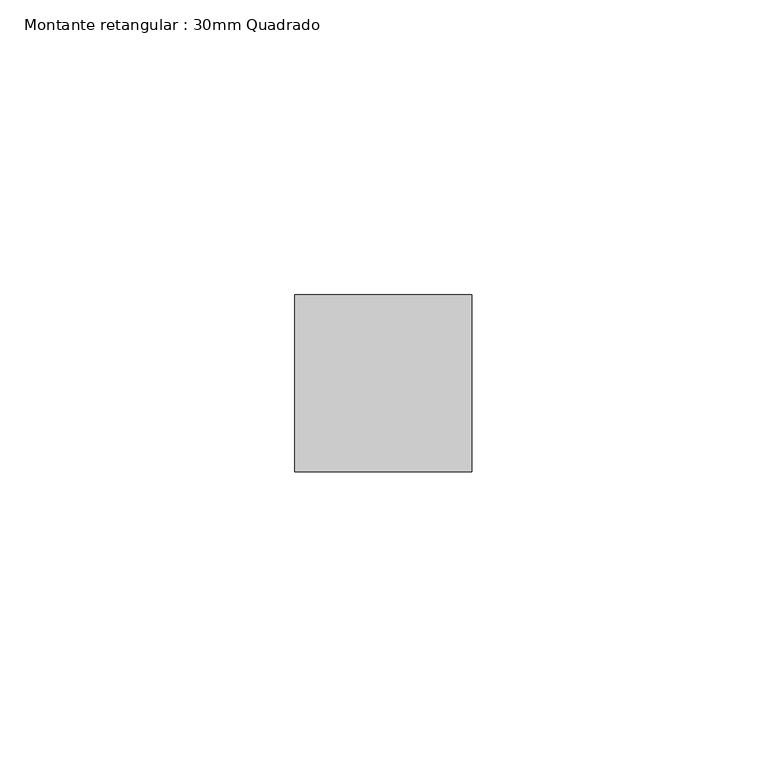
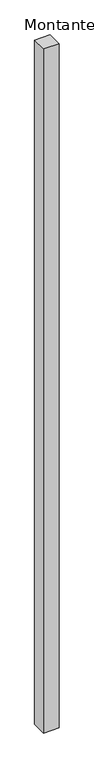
"""IFC4 building model written with IfcOpenShell, lengths in millimetres: member geometry, Montante retangular : 30mm Quadrado."""

from ifc_helpers import new_model, si_unit, frame, origin, place, context, project, spatial, polyline, outline, extrude, source, transform, mapped, element, save


def montante_retangular_30mm_quadrado_ca849ac9(model_context):
    return source(origin(), model_context, "Body", "SweptSolid", [
        extrude(outline(polyline([(0.0, 15.0), (0.0, -15.0), (-30.0, -15.0), (-30.0, 15.0), (0.0, 15.0)])), frame((0.0, 0.0, -1409.9999997), z_axis=(0.0, 0.0, 1.0), x_axis=(1.0, 0.0, 0.0)), (0.0, 0.0, 1.0), 1409.9999997),
    ])


if __name__ == "__main__":
    model = new_model("IFC4")
    model_context = context("Model", 3, world=origin())
    ifc_project = project(units=[si_unit("LENGTHUNIT", "METRE", prefix="MILLI")], contexts=[model_context])
    site = spatial("IfcSite", under=ifc_project)
    building = spatial("IfcBuilding", under=site)
    placement = place(None, origin())
    montante_retangular_30mm_quadrado_shape = montante_retangular_30mm_quadrado_ca849ac9(model_context)
    element("IfcMember", 1, ObjectType="Montante retangular : 30mm Quadrado", at=placement, inside=building, context=model_context, shape_type="MappedRepresentation", body=[
        mapped(montante_retangular_30mm_quadrado_shape, transform((0.0, 0.0, 0.0), x_axis=(1.0, 0.0, 0.0), y_axis=(0.0, 1.0, 0.0), z_axis=(0.0, 0.0, 1.0))),
    ])
    save(model, "model.ifc")
